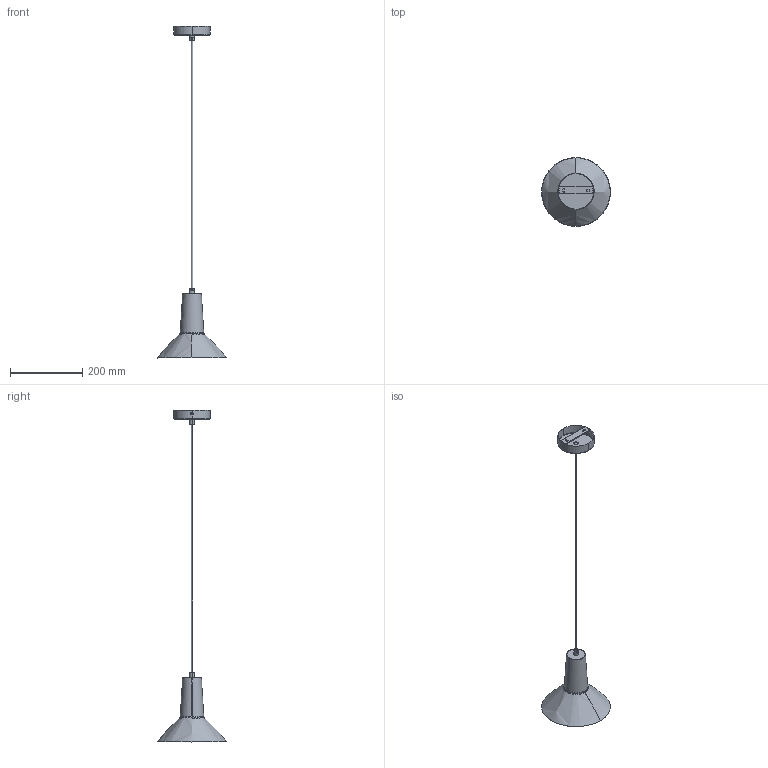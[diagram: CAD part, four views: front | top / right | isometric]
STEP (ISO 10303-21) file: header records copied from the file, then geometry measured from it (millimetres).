
FILE_DESCRIPTION (( 'STEP AP214' ), '1' );
FILE_NAME ('HUDO_C1366_1.STEP', '2026-06-16T15:04:38', ( '' ), ( '' ), 'SwSTEP 2.0', 'SolidWorks 2023', '' );
FILE_SCHEMA (( 'AUTOMOTIVE_DESIGN' ));
Length unit declared in the file: millimetre
Products named in the file (1): HUDO_C1366_1
Bounding box: 190.01 x 190.01 x 916.48 mm (x, y, z)
Volume: 245349.3 mm3; surface area: 189828.3 mm2
Topology: 12 solids, 12 shells, 417 faces, 959 edges, 563 vertices
Faces by surface type: bspline 354, plane 63
Entity records: 15821 total; most frequent: CARTESIAN_POINT 10390, ORIENTED_EDGE 1906, EDGE_CURVE 953, VERTEX_POINT 563, EDGE_LOOP 444, FACE_OUTER_BOUND 417, ADVANCED_FACE 417, B_SPLINE_CURVE_WITH_KNOTS 279
